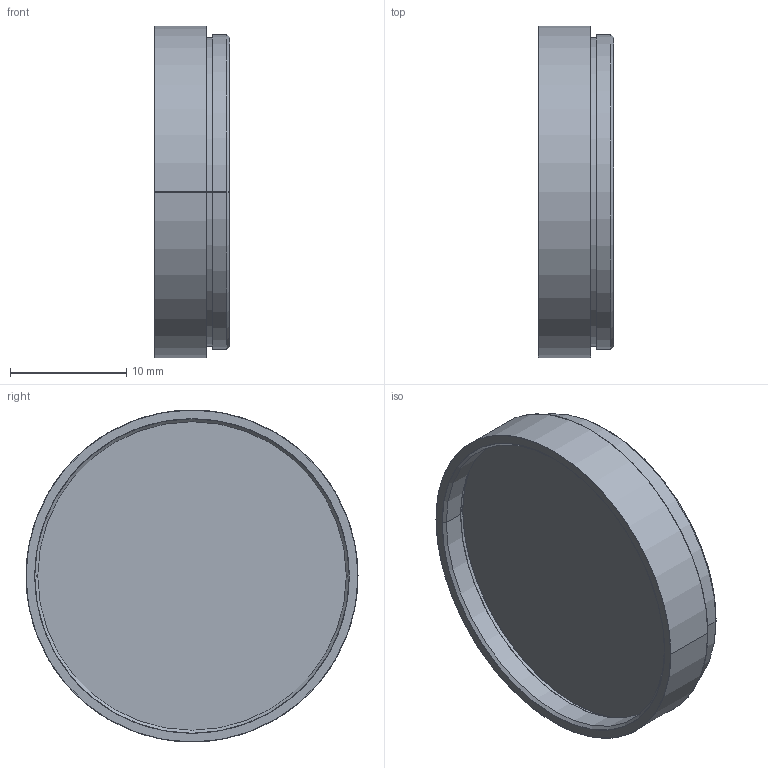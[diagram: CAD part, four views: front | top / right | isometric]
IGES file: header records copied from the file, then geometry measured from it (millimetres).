
Start section: SolidWorks IGES file using analytic representation for surfaces
Bounding box: 6.5 x 28.5 x 28.5 mm (x, y, z)
Surface area: 2474.1 mm2 (no closed solid volume)
Topology: 0 solids, 0 shells, 25 faces, 520 edges, 520 vertices
Faces by surface type: revolution 18, bspline 7
